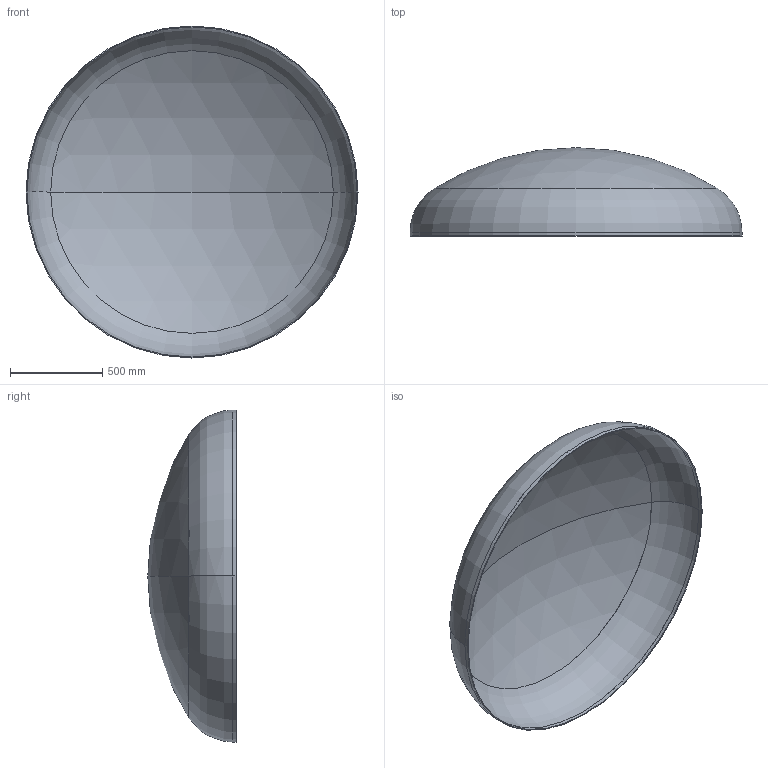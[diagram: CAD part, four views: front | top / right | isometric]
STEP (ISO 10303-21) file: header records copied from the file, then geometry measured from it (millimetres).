
FILE_DESCRIPTION (( 'STEP AP203' ), '1' );
FILE_NAME ('DIN 28013 Korbbogenform_-_Boden DIN 28013 - 1800 x 20 - I - s=5.step', '2016-07-01T12:14:10', ( '' ), ( '' ), 'SwSTEP 2.0', 'SolidWorks 2013', '' );
FILE_SCHEMA (( 'CONFIG_CONTROL_DESIGN' ));
Length unit declared in the file: millimetre
Products named in the file (1): DIN 28013 Korbbogenform_-_Boden DIN 28013 - 1800 x 20 - I - s=5
Bounding box: 1800 x 478.68 x 1800 mm (x, y, z)
Volume: 18095363.8 mm3; surface area: 7266390.7 mm2
Topology: 1 solids, 1 shells, 13 faces, 24 edges, 14 vertices
Faces by surface type: torus 4, cylinder 4, sphere 4, plane 1
Entity records: 407 total; most frequent: DIRECTION 72, CARTESIAN_POINT 52, ORIENTED_EDGE 48, AXIS2_PLACEMENT_3D 34, EDGE_CURVE 24, CIRCLE 20, VERTEX_POINT 14, EDGE_LOOP 14
